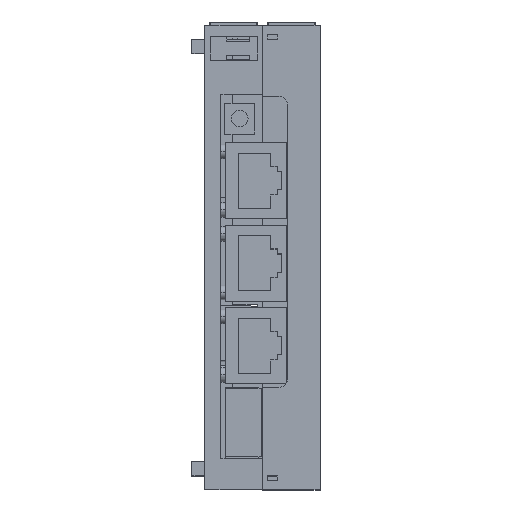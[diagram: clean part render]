
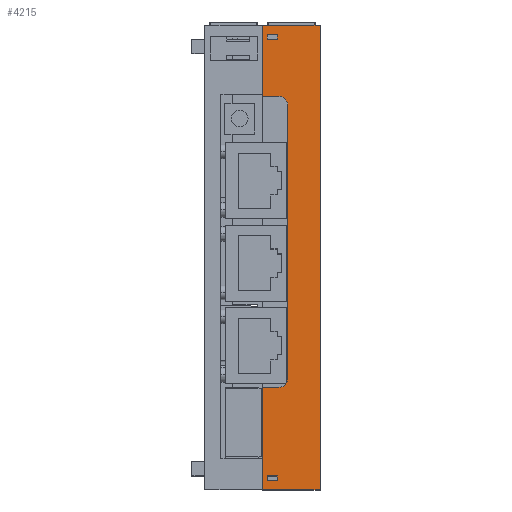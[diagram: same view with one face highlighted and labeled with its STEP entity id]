
A CAD part, top view. The second image highlights one B-rep face of the part: STEP entity #4215.
In plain terms, the highlighted planar face has unit normal (0, 0, 1) as drawn and (1, 0, 0) by its records, which use the part's own axes.
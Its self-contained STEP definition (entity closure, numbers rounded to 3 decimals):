
#51 = EDGE_CURVE ( 'NONE', #25544, #35641, #25775, .T. ) ;
#449 = CARTESIAN_POINT ( 'NONE',  ( 58.397, -53.973, -24. ) ) ;
#810 = DIRECTION ( 'NONE',  ( 0., 1., 0. ) ) ;
#873 = EDGE_CURVE ( 'NONE', #14878, #21606, #33237, .T. ) ;
#1093 = FACE_BOUND ( 'NONE', #6100, .T. ) ;
#1420 = ORIENTED_EDGE ( 'NONE', *, *, #16931, .F. ) ;
#1582 = EDGE_CURVE ( 'NONE', #37829, #29873, #36420, .T. ) ;
#1588 = CARTESIAN_POINT ( 'NONE',  ( 58.397, -53.973, 0.666 ) ) ;
#1826 = EDGE_LOOP ( 'NONE', ( #26317, #13980, #44447, #29794, #42723, #4625, #1420, #6947, #35164, #22773 ) ) ;
#2056 = PLANE ( 'NONE',  #4038 ) ;
#2393 = DIRECTION ( 'NONE',  ( 1., 0., 0. ) ) ;
#3027 = LINE ( 'NONE', #10455, #41459 ) ;
#3129 = CARTESIAN_POINT ( 'NONE',  ( 58.397, 31.402, -11.5 ) ) ;
#3603 = VERTEX_POINT ( 'NONE', #10137 ) ;
#3815 = CARTESIAN_POINT ( 'NONE',  ( 58.397, -31.748, -15. ) ) ;
#4038 = AXIS2_PLACEMENT_3D ( 'NONE', #43320, #43020, #22634 ) ;
#4125 = CARTESIAN_POINT ( 'NONE',  ( 58.397, -31.748, -15. ) ) ;
#4215 = ADVANCED_FACE ( 'NONE', ( #1093, #26020, #40581 ), #2056, .F. ) ;
#4625 = ORIENTED_EDGE ( 'NONE', *, *, #10550, .F. ) ;
#4856 = VECTOR ( 'NONE', #40504, 1000. ) ;
#4974 = CARTESIAN_POINT ( 'NONE',  ( 58.397, 46.827, 0.666 ) ) ;
#5450 = VERTEX_POINT ( 'NONE', #449 ) ;
#5460 = ORIENTED_EDGE ( 'NONE', *, *, #31660, .T. ) ;
#6100 = EDGE_LOOP ( 'NONE', ( #42254, #5460, #11786, #22275 ) ) ;
#6378 = LINE ( 'NONE', #3129, #34498 ) ;
#6926 = LINE ( 'NONE', #14551, #42580 ) ;
#6947 = ORIENTED_EDGE ( 'NONE', *, *, #42564, .T. ) ;
#7011 = CARTESIAN_POINT ( 'NONE',  ( 58.397, 44.801, -14.707 ) ) ;
#7065 = CIRCLE ( 'NONE', #41779, 2. ) ;
#7072 = DIRECTION ( 'NONE',  ( 0., -1., 0. ) ) ;
#7830 = VECTOR ( 'NONE', #810, 1000. ) ;
#7943 = EDGE_LOOP ( 'NONE', ( #14364, #32322, #9525, #30021 ) ) ;
#7989 = VECTOR ( 'NONE', #39822, 1000. ) ;
#8077 = CARTESIAN_POINT ( 'NONE',  ( 58.397, 29.402, -15. ) ) ;
#8962 = EDGE_CURVE ( 'NONE', #35641, #12347, #34067, .T. ) ;
#9456 = VERTEX_POINT ( 'NONE', #35516 ) ;
#9525 = ORIENTED_EDGE ( 'NONE', *, *, #44421, .T. ) ;
#9744 = EDGE_CURVE ( 'NONE', #3603, #14878, #6378, .T. ) ;
#9911 = CARTESIAN_POINT ( 'NONE',  ( 58.397, -50.946, -14.76 ) ) ;
#10137 = CARTESIAN_POINT ( 'NONE',  ( 58.397, 31.402, -15. ) ) ;
#10455 = CARTESIAN_POINT ( 'NONE',  ( 58.397, 0., -12.54 ) ) ;
#10550 = EDGE_CURVE ( 'NONE', #37913, #25544, #44101, .T. ) ;
#10652 = DIRECTION ( 'NONE',  ( 0., 0., 1. ) ) ;
#10657 = CARTESIAN_POINT ( 'NONE',  ( 58.397, 44.827, -11.5 ) ) ;
#11237 = VECTOR ( 'NONE', #40235, 1000. ) ;
#11440 = CARTESIAN_POINT ( 'NONE',  ( 58.397, -53.973, -11.5 ) ) ;
#11786 = ORIENTED_EDGE ( 'NONE', *, *, #1582, .T. ) ;
#11940 = VECTOR ( 'NONE', #31000, 1000. ) ;
#11999 = DIRECTION ( 'NONE',  ( 0., 1., 0. ) ) ;
#12347 = VERTEX_POINT ( 'NONE', #18323 ) ;
#12597 = VECTOR ( 'NONE', #34891, 1000. ) ;
#13637 = CARTESIAN_POINT ( 'NONE',  ( 58.397, 44.827, -11.5 ) ) ;
#13980 = ORIENTED_EDGE ( 'NONE', *, *, #9744, .F. ) ;
#14364 = ORIENTED_EDGE ( 'NONE', *, *, #24314, .T. ) ;
#14372 = VERTEX_POINT ( 'NONE', #41871 ) ;
#14551 = CARTESIAN_POINT ( 'NONE',  ( 58.397, -51.946, 0. ) ) ;
#14878 = VERTEX_POINT ( 'NONE', #31388 ) ;
#14959 = DIRECTION ( 'NONE',  ( 1., 0., 0. ) ) ;
#16051 = VERTEX_POINT ( 'NONE', #26286 ) ;
#16931 = EDGE_CURVE ( 'NONE', #20282, #37913, #31541, .T. ) ;
#17223 = DIRECTION ( 'NONE',  ( 0., 1., 0. ) ) ;
#17852 = LINE ( 'NONE', #18848, #11940 ) ;
#18222 = LINE ( 'NONE', #1588, #7989 ) ;
#18323 = CARTESIAN_POINT ( 'NONE',  ( 58.397, 29.402, -17. ) ) ;
#18478 = CARTESIAN_POINT ( 'NONE',  ( 58.397, 44.801, -14.76 ) ) ;
#18824 = EDGE_CURVE ( 'NONE', #29873, #21762, #28530, .T. ) ;
#18848 = CARTESIAN_POINT ( 'NONE',  ( 58.397, 43.854, -14.76 ) ) ;
#19324 = VECTOR ( 'NONE', #11999, 1000. ) ;
#20282 = VERTEX_POINT ( 'NONE', #11440 ) ;
#20724 = DIRECTION ( 'NONE',  ( 0., 0., -1. ) ) ;
#20752 = VECTOR ( 'NONE', #20983, 1000. ) ;
#20768 = VERTEX_POINT ( 'NONE', #18478 ) ;
#20859 = CARTESIAN_POINT ( 'NONE',  ( 58.397, 46.827, -24. ) ) ;
#20983 = DIRECTION ( 'NONE',  ( 0., 0., 1. ) ) ;
#21606 = VERTEX_POINT ( 'NONE', #37828 ) ;
#21762 = VERTEX_POINT ( 'NONE', #34799 ) ;
#22178 = CARTESIAN_POINT ( 'NONE',  ( 58.397, -29.748, -17. ) ) ;
#22275 = ORIENTED_EDGE ( 'NONE', *, *, #18824, .T. ) ;
#22634 = DIRECTION ( 'NONE',  ( 0., 0., 1. ) ) ;
#22773 = ORIENTED_EDGE ( 'NONE', *, *, #37273, .F. ) ;
#23731 = LINE ( 'NONE', #32994, #11237 ) ;
#24314 = EDGE_CURVE ( 'NONE', #9456, #41668, #39107, .T. ) ;
#25187 = VECTOR ( 'NONE', #35419, 1000. ) ;
#25460 = VECTOR ( 'NONE', #20724, 1000. ) ;
#25544 = VERTEX_POINT ( 'NONE', #3815 ) ;
#25775 = CIRCLE ( 'NONE', #28165, 2. ) ;
#26020 = FACE_BOUND ( 'NONE', #7943, .T. ) ;
#26286 = CARTESIAN_POINT ( 'NONE',  ( 58.397, -51.946, -14.76 ) ) ;
#26317 = ORIENTED_EDGE ( 'NONE', *, *, #873, .F. ) ;
#26742 = LINE ( 'NONE', #4974, #28328 ) ;
#27030 = CARTESIAN_POINT ( 'NONE',  ( 58.397, -29.748, -15. ) ) ;
#27310 = EDGE_CURVE ( 'NONE', #32317, #5450, #23731, .T. ) ;
#28165 = AXIS2_PLACEMENT_3D ( 'NONE', #27030, #2393, #33690 ) ;
#28328 = VECTOR ( 'NONE', #37866, 1000. ) ;
#28530 = LINE ( 'NONE', #39817, #19324 ) ;
#29775 = LINE ( 'NONE', #7011, #25460 ) ;
#29794 = ORIENTED_EDGE ( 'NONE', *, *, #8962, .F. ) ;
#29873 = VERTEX_POINT ( 'NONE', #33264 ) ;
#30021 = ORIENTED_EDGE ( 'NONE', *, *, #36435, .T. ) ;
#30776 = EDGE_CURVE ( 'NONE', #12347, #3603, #7065, .T. ) ;
#31000 = DIRECTION ( 'NONE',  ( 0., -1., 0. ) ) ;
#31263 = CARTESIAN_POINT ( 'NONE',  ( 58.397, -50.946, 0. ) ) ;
#31266 = CARTESIAN_POINT ( 'NONE',  ( 58.397, -31.748, -11.5 ) ) ;
#31388 = CARTESIAN_POINT ( 'NONE',  ( 58.397, 31.402, -11.5 ) ) ;
#31408 = DIRECTION ( 'NONE',  ( 0., 0., -1. ) ) ;
#31541 = LINE ( 'NONE', #10657, #12597 ) ;
#31660 = EDGE_CURVE ( 'NONE', #20768, #37829, #17852, .T. ) ;
#32317 = VERTEX_POINT ( 'NONE', #20859 ) ;
#32322 = ORIENTED_EDGE ( 'NONE', *, *, #42863, .T. ) ;
#32994 = CARTESIAN_POINT ( 'NONE',  ( 58.397, 46.827, -24. ) ) ;
#33237 = LINE ( 'NONE', #13637, #7830 ) ;
#33264 = CARTESIAN_POINT ( 'NONE',  ( 58.397, 43.801, -12.54 ) ) ;
#33690 = DIRECTION ( 'NONE',  ( 0., 0., 1. ) ) ;
#34067 = LINE ( 'NONE', #43825, #4856 ) ;
#34296 = DIRECTION ( 'NONE',  ( 0., 0., 1. ) ) ;
#34498 = VECTOR ( 'NONE', #34296, 1000. ) ;
#34799 = CARTESIAN_POINT ( 'NONE',  ( 58.397, 44.801, -12.54 ) ) ;
#34891 = DIRECTION ( 'NONE',  ( 0., 1., 0. ) ) ;
#35164 = ORIENTED_EDGE ( 'NONE', *, *, #27310, .F. ) ;
#35419 = DIRECTION ( 'NONE',  ( 0., 0., -1. ) ) ;
#35516 = CARTESIAN_POINT ( 'NONE',  ( 58.397, -50.946, -12.54 ) ) ;
#35641 = VERTEX_POINT ( 'NONE', #22178 ) ;
#36420 = LINE ( 'NONE', #41553, #20752 ) ;
#36435 = EDGE_CURVE ( 'NONE', #14372, #9456, #3027, .T. ) ;
#37273 = EDGE_CURVE ( 'NONE', #21606, #32317, #26742, .T. ) ;
#37828 = CARTESIAN_POINT ( 'NONE',  ( 58.397, 46.827, -11.5 ) ) ;
#37829 = VERTEX_POINT ( 'NONE', #40967 ) ;
#37866 = DIRECTION ( 'NONE',  ( 0., 0., -1. ) ) ;
#37913 = VERTEX_POINT ( 'NONE', #31266 ) ;
#38066 = VECTOR ( 'NONE', #31408, 1000. ) ;
#39031 = EDGE_CURVE ( 'NONE', #21762, #20768, #29775, .T. ) ;
#39107 = LINE ( 'NONE', #31263, #38066 ) ;
#39210 = DIRECTION ( 'NONE',  ( 0., 0., 1. ) ) ;
#39817 = CARTESIAN_POINT ( 'NONE',  ( 58.397, 43.854, -12.54 ) ) ;
#39822 = DIRECTION ( 'NONE',  ( 0., 0., -1. ) ) ;
#40235 = DIRECTION ( 'NONE',  ( 0., -1., 0. ) ) ;
#40351 = VECTOR ( 'NONE', #7072, 1000. ) ;
#40504 = DIRECTION ( 'NONE',  ( 0., 1., 0. ) ) ;
#40581 = FACE_OUTER_BOUND ( 'NONE', #1826, .T. ) ;
#40937 = LINE ( 'NONE', #44548, #40351 ) ;
#40967 = CARTESIAN_POINT ( 'NONE',  ( 58.397, 43.801, -14.76 ) ) ;
#41459 = VECTOR ( 'NONE', #17223, 1000. ) ;
#41553 = CARTESIAN_POINT ( 'NONE',  ( 58.397, 43.801, -14.707 ) ) ;
#41668 = VERTEX_POINT ( 'NONE', #9911 ) ;
#41779 = AXIS2_PLACEMENT_3D ( 'NONE', #8077, #14959, #39210 ) ;
#41871 = CARTESIAN_POINT ( 'NONE',  ( 58.397, -51.946, -12.54 ) ) ;
#42254 = ORIENTED_EDGE ( 'NONE', *, *, #39031, .T. ) ;
#42564 = EDGE_CURVE ( 'NONE', #20282, #5450, #18222, .T. ) ;
#42580 = VECTOR ( 'NONE', #10652, 1000. ) ;
#42723 = ORIENTED_EDGE ( 'NONE', *, *, #51, .F. ) ;
#42863 = EDGE_CURVE ( 'NONE', #41668, #16051, #40937, .T. ) ;
#43020 = DIRECTION ( 'NONE',  ( -1., 0., 0. ) ) ;
#43320 = CARTESIAN_POINT ( 'NONE',  ( 58.397, 43.727, -2. ) ) ;
#43825 = CARTESIAN_POINT ( 'NONE',  ( 58.397, 29.402, -17. ) ) ;
#44101 = LINE ( 'NONE', #4125, #25187 ) ;
#44421 = EDGE_CURVE ( 'NONE', #16051, #14372, #6926, .T. ) ;
#44447 = ORIENTED_EDGE ( 'NONE', *, *, #30776, .F. ) ;
#44548 = CARTESIAN_POINT ( 'NONE',  ( 58.397, 0., -14.76 ) ) ;
